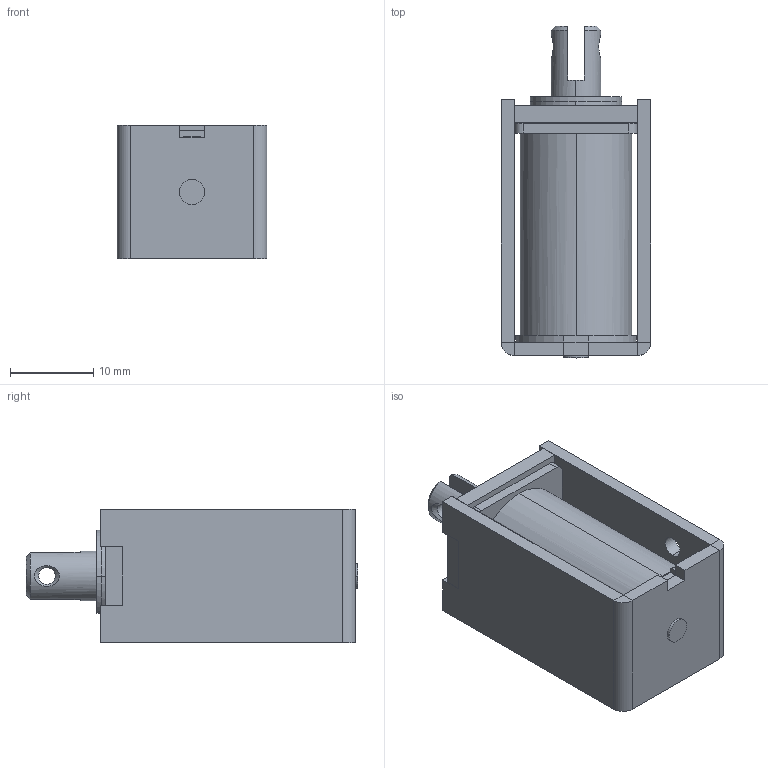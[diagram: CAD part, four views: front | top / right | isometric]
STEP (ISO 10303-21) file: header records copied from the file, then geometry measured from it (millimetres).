
FILE_DESCRIPTION (( 'STEP AP203' ), '1' );
FILE_NAME ('w_ca0630A.STEP', '2015-05-26T01:09:10', ( 'YAKATA' ), ( '' ), 'SwSTEP 2.0', 'SolidWorks 2014', '' );
FILE_SCHEMA (( 'CONFIG_CONTROL_DESIGN' ));
Length unit declared in the file: millimetre
Products named in the file (12): w_20630061; w_ca0630A; w_20630020; w_30630020; Part4^w_ca0630A; w_20630036; w_0E010500F; w_20630070; w_20630010A; Part2^w_ca0630A_pl; w_20630041; w_ca0630A_pl
Assembly tree (11 placements, depth 3):
  w_ca0630A
    w_20630010A
    w_20630041
    w_20630061
    w_20630020
    w_30630020
    Part4^w_ca0630A
    w_ca0630A_pl
      w_20630036
      w_0E010500F
      w_20630070
      Part2^w_ca0630A_pl
Bounding box: 18 x 39.89 x 16 mm (x, y, z)
Surface area: 14056.4 mm2
Topology: 10 solids, 10 shells, 274 faces, 702 edges, 455 vertices
Faces by surface type: plane 143, cylinder 119, cone 12
Entity records: 9858 total; most frequent: CARTESIAN_POINT 1630, DIRECTION 1534, ORIENTED_EDGE 1404, EDGE_CURVE 702, AXIS2_PLACEMENT_3D 559, VERTEX_POINT 455, VECTOR 416, LINE 416
